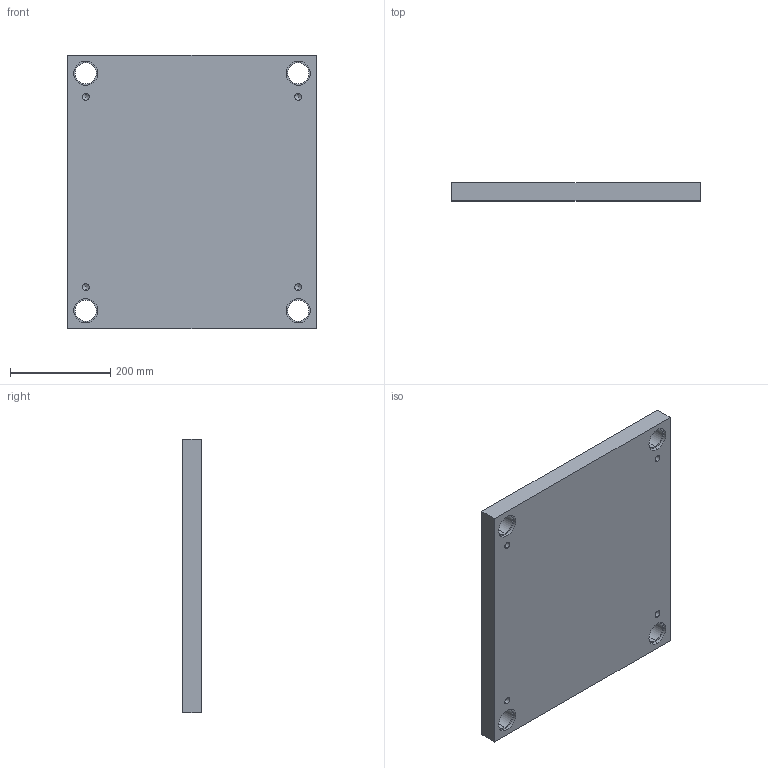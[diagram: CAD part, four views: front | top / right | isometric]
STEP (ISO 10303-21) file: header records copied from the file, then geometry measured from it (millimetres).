
FILE_DESCRIPTION (( 'STEP AP214' ), '1' );
FILE_NAME ('L35_496x546x036.STEP', '2018-10-10T21:02:19', ( '' ), ( '' ), 'SwSTEP 2.0', 'SolidWorks 2014', '' );
FILE_SCHEMA (( 'AUTOMOTIVE_DESIGN' ));
Length unit declared in the file: millimetre
Products named in the file (1): L35_496x546x036
Bounding box: 495.7 x 36 x 545.7 mm (x, y, z)
Volume: 9511574.6 mm3; surface area: 628983.8 mm2
Topology: 1 solids, 1 shells, 42 faces, 100 edges, 60 vertices
Faces by surface type: cylinder 24, plane 10, cone 8
Entity records: 1222 total; most frequent: DIRECTION 226, CARTESIAN_POINT 195, ORIENTED_EDGE 184, EDGE_CURVE 92, AXIS2_PLACEMENT_3D 91, VERTEX_POINT 60, EDGE_LOOP 58, CIRCLE 48
